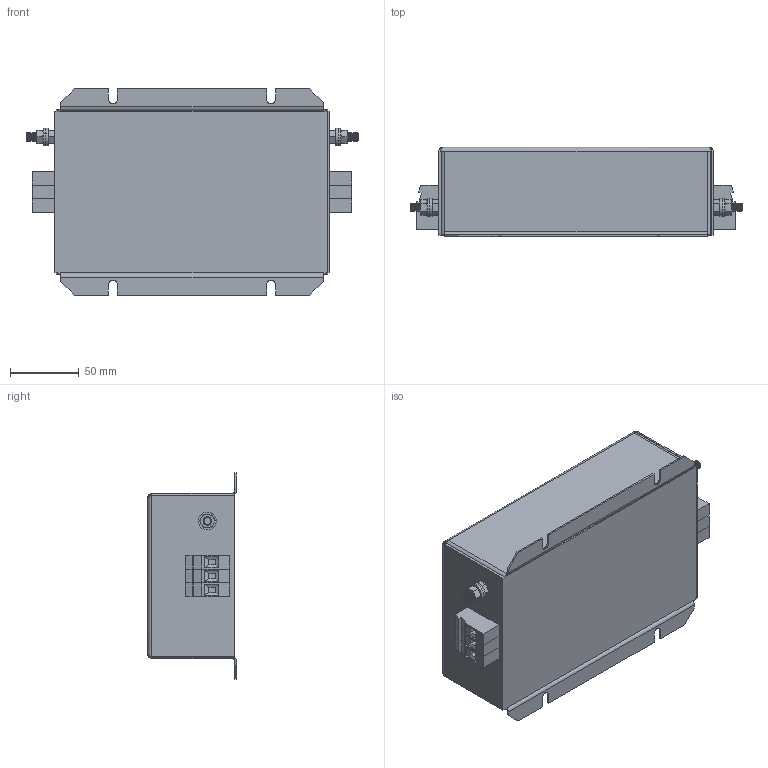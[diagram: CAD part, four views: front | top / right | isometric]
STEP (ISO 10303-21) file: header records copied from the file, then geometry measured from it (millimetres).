
FILE_DESCRIPTION (( 'STEP AP203' ), '1' );
FILE_NAME ('NF-25.STEP', '2022-07-21T11:18:24', ( '' ), ( '' ), 'SwSTEP 2.0', 'SolidWorks 2017', '' );
FILE_SCHEMA (( 'CONFIG_CONTROL_DESIGN' ));
Length unit declared in the file: millimetre
Products named in the file (8): NF-36; VDFK6x3; NF-25,36; hex screw_am_B18.6.7M - M6 x 1.0 x 16 Indented HHMS --16S; M6x16 Earth post; flat washer narrow_am_B18.22M - Plain washer, 6 mm, narrow; VDFK-6; hex nut style 1_am_B18.2.4.1M - Hex nut, Style 1,  M6 x 1 --D-N
Assembly tree (12 placements, depth 3):
  NF-25,36
    NF-36
    VDFK6x3  x2
      VDFK-6
    M6x16 Earth post  x2
      flat washer narrow_am_B18.22M - Plain washer, 6 mm, narrow
      hex nut style 1_am_B18.2.4.1M - Hex nut, Style 1,  M6 x 1 --D-N
      hex screw_am_B18.6.7M - M6 x 1.0 x 16 Indented HHMS --16S
Bounding box: 241.4 x 64.8 x 150 mm (x, y, z)
Volume: 1560314.3 mm3; surface area: 155283.2 mm2
Topology: 15 solids, 15 shells, 746 faces, 1842 edges, 1154 vertices
Faces by surface type: plane 388, cylinder 182, cone 168, bspline 8
Entity records: 10905 total; most frequent: CARTESIAN_POINT 2319, DIRECTION 1657, ORIENTED_EDGE 1566, EDGE_CURVE 783, AXIS2_PLACEMENT_3D 616, VERTEX_POINT 486, VECTOR 425, LINE 425
